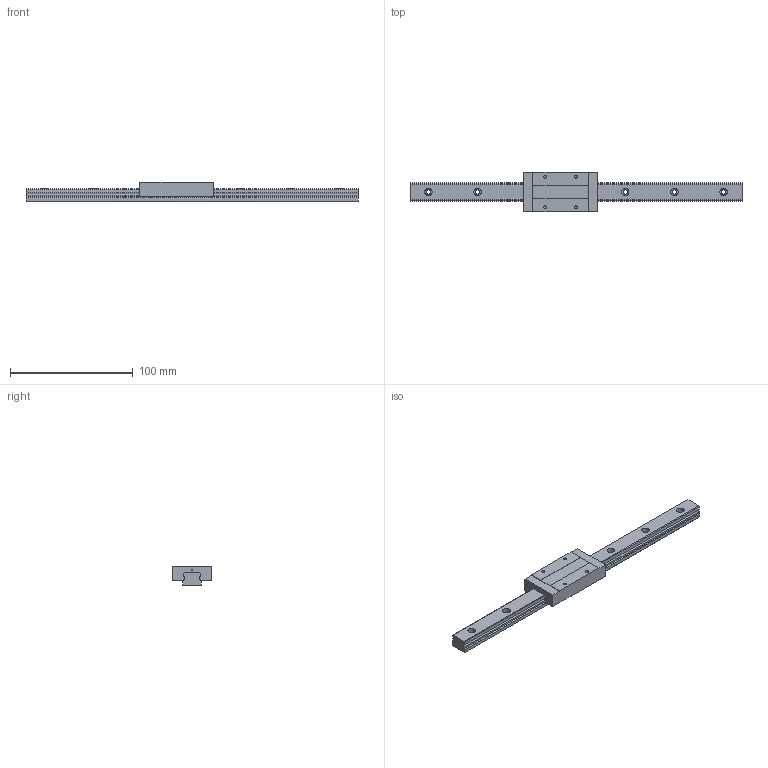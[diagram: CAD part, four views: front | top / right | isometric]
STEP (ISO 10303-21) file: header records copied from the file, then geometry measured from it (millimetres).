
FILE_DESCRIPTION((''),'2;1');
FILE_NAME('D:\製品 (図面)\カタログ用3D\リニアガイド関連\STEP形式\LGM-L\LGM15L.stp','2010-06-02T15:56:48',('Tsuchiya'),(''),'Autodesk Inventor 10','Autodesk Inventor 10','');
FILE_SCHEMA(('AUTOMOTIVE_DESIGN { 1 0 10303 214 1 1 1 1 }'));
Length unit declared in the file: millimetre
Products named in the file (3): LGM15L; LGM15L1; LGM15L2
Assembly tree (2 placements, depth 2):
  LGM15L
    LGM15L1
    LGM15L2
Bounding box: 270 x 32 x 16 mm (x, y, z)
Volume: 55998.8 mm3; surface area: 22206.3 mm2
Topology: 2 solids, 2 shells, 75 faces, 184 edges, 122 vertices
Faces by surface type: plane 39, bspline 27, cylinder 7, cone 2
Full cylindrical faces by diameter (mm): 1 x1, 2.459 x2
Entity records: 2387 total; most frequent: CARTESIAN_POINT 697, DIRECTION 308, ORIENTED_EDGE 308, EDGE_CURVE 154, EDGE_LOOP 122, VERTEX_POINT 116, VECTOR 106, LINE 106
